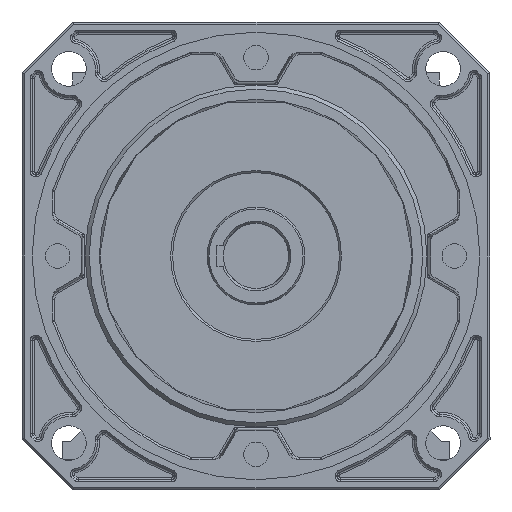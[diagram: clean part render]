
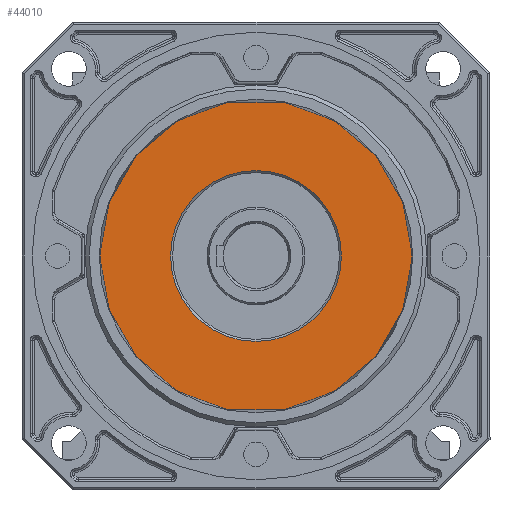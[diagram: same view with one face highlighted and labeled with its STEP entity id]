
A CAD part, left-side view. The second image highlights one B-rep face of the part: STEP entity #44010.
In plain terms, the highlighted planar face has unit normal (-1, 0, 0).
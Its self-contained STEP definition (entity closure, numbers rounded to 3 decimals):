
#1637=FACE_BOUND('',#8541,.T.);
#3518=CIRCLE('',#47482,42.);
#3519=CIRCLE('',#47484,76.645);
#5897=FACE_OUTER_BOUND('',#8540,.T.);
#8540=EDGE_LOOP('',(#33678));
#8541=EDGE_LOOP('',(#33679));
#19358=VERTEX_POINT('',#70697);
#19359=VERTEX_POINT('',#70700);
#24523=EDGE_CURVE('',#19358,#19358,#3518,.T.);
#24524=EDGE_CURVE('',#19359,#19359,#3519,.T.);
#33678=ORIENTED_EDGE('',*,*,#24524,.F.);
#33679=ORIENTED_EDGE('',*,*,#24523,.T.);
#42570=PLANE('',#47483);
#44010=ADVANCED_FACE('',(#5897,#1637),#42570,.T.);
#47482=AXIS2_PLACEMENT_3D('',#70698,#55871,#55872);
#47483=AXIS2_PLACEMENT_3D('',#70699,#55873,#55874);
#47484=AXIS2_PLACEMENT_3D('',#70701,#55875,#55876);
#55871=DIRECTION('center_axis',(1.,0.,0.));
#55872=DIRECTION('ref_axis',(0.,1.,0.));
#55873=DIRECTION('center_axis',(-1.,0.,0.));
#55874=DIRECTION('ref_axis',(0.,0.,1.));
#55875=DIRECTION('center_axis',(1.,0.,0.));
#55876=DIRECTION('ref_axis',(0.,1.,0.));
#70697=CARTESIAN_POINT('',(-40.442,-27.443,0.));
#70698=CARTESIAN_POINT('Origin',(-40.442,-69.443,0.));
#70699=CARTESIAN_POINT('Origin',(-40.442,-10.121,0.));
#70700=CARTESIAN_POINT('',(-40.442,7.202,0.));
#70701=CARTESIAN_POINT('Origin',(-40.442,-69.443,0.));
